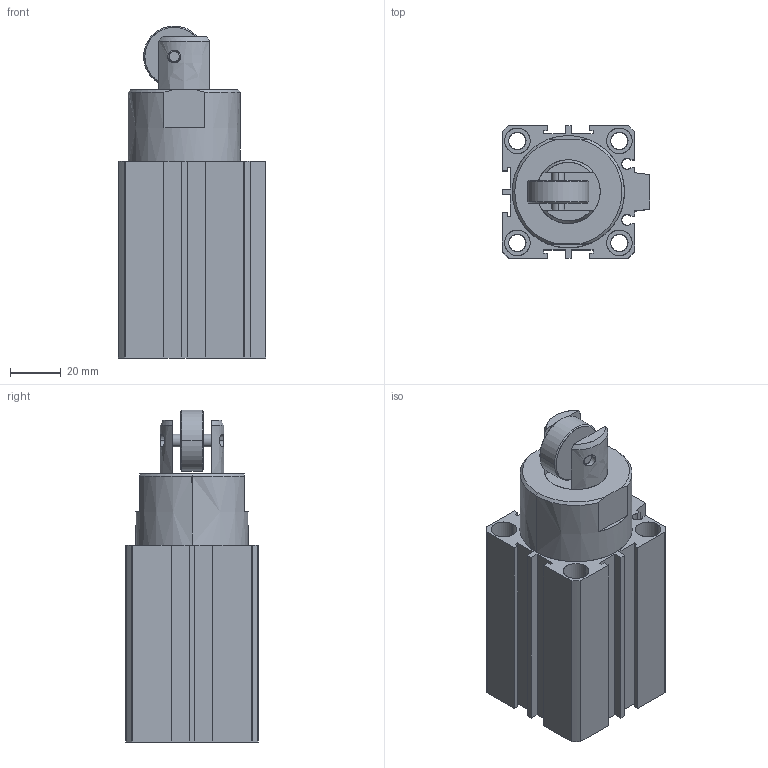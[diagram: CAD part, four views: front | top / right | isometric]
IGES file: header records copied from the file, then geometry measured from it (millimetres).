
Start section: SolidWorks IGES file using analytic representation for surfaces
Global section: file name: C:\Documents and Settings\admin\Bureau\stage de yaya\Plan Philippe Pince\PINCE\VUSB\pièces en 3D\VUSB STEP\ELOC-3DWG\ELOC-40-25-TIGE ENTREE.IGS; native system: SolidWorks 2007; preprocessor: SolidWorks 2007; author: admin; date: 080328.091006; units: millimetre
Bounding box: 58 x 52 x 130.2 mm (x, y, z)
Surface area: 55426.6 mm2 (no closed solid volume)
Topology: 0 solids, 0 shells, 848 faces, 10530 edges, 10568 vertices
Faces by surface type: bspline 775, revolution 73
